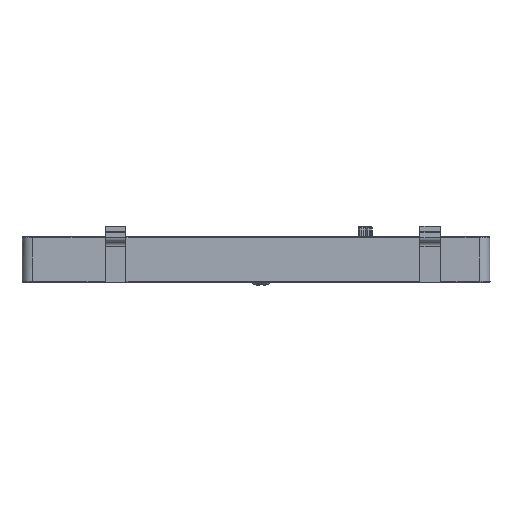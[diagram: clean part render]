
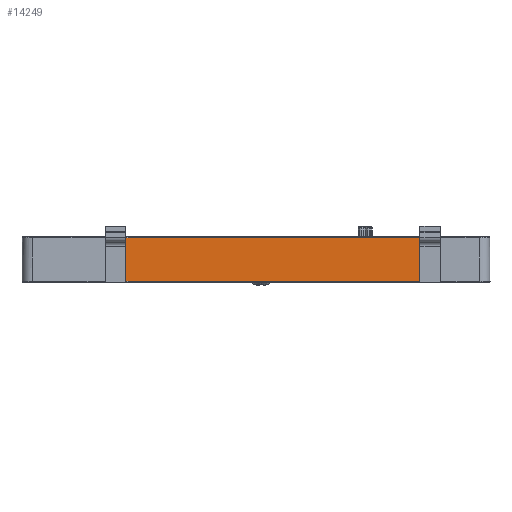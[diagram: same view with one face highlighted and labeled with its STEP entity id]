
A CAD part, front view. The second image highlights one B-rep face of the part: STEP entity #14249.
In plain terms, the highlighted planar face has unit normal (0, -1, 0.009).
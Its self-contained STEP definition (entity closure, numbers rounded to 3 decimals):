
#475 = AXIS2_PLACEMENT_3D ( 'NONE', #22382, #22383, #22384 ) ;
#4091 = EDGE_CURVE ( 'NONE', #6246, #24326, #28814, .T. ) ;
#4092 = EDGE_CURVE ( 'NONE', #6250, #6246, #28805, .T. ) ;
#4093 = EDGE_CURVE ( 'NONE', #24324, #6250, #28792, .T. ) ;
#5379 = CARTESIAN_POINT ( 'NONE',  ( 31.5, 0.075, 8.602 ) ) ;
#5385 = CARTESIAN_POINT ( 'NONE',  ( -25., 0.075, 8.602 ) ) ;
#6246 = VERTEX_POINT ( 'NONE', #5379 ) ;
#6250 = VERTEX_POINT ( 'NONE', #5385 ) ;
#7605 = CARTESIAN_POINT ( 'NONE',  ( -25., 0.002, 0.202 ) ) ;
#7607 = CARTESIAN_POINT ( 'NONE',  ( 31.5, 0.002, 0.202 ) ) ;
#14249 = ADVANCED_FACE ( 'NONE', ( #22371 ), #22372, .T. ) ;
#14580 = EDGE_CURVE ( 'NONE', #24324, #24326, #36730, .T. ) ;
#16517 = VECTOR ( 'NONE', #28817, 1000. ) ;
#16519 = VECTOR ( 'NONE', #28822, 1000. ) ;
#16521 = VECTOR ( 'NONE', #28820, 1000. ) ;
#22371 = FACE_OUTER_BOUND ( 'NONE', #31777, .T. ) ;
#22372 = PLANE ( 'NONE',  #475 ) ;
#22382 = CARTESIAN_POINT ( 'NONE',  ( -25., 0.075, 8.602 ) ) ;
#22383 = DIRECTION ( 'NONE',  ( 0., -1., 0.009 ) ) ;
#22384 = DIRECTION ( 'NONE',  ( 0., -0.009, -1. ) ) ;
#24324 = VERTEX_POINT ( 'NONE', #7605 ) ;
#24326 = VERTEX_POINT ( 'NONE', #7607 ) ;
#26300 = ORIENTED_EDGE ( 'NONE', *, *, #14580, .T. ) ;
#26301 = ORIENTED_EDGE ( 'NONE', *, *, #4091, .F. ) ;
#26302 = ORIENTED_EDGE ( 'NONE', *, *, #4092, .F. ) ;
#26303 = ORIENTED_EDGE ( 'NONE', *, *, #4093, .F. ) ;
#28792 = LINE ( 'NONE', #28821, #16519 ) ;
#28805 = LINE ( 'NONE', #28818, #16521 ) ;
#28814 = LINE ( 'NONE', #28816, #16517 ) ;
#28816 = CARTESIAN_POINT ( 'NONE',  ( 31.5, 0.075, 8.602 ) ) ;
#28817 = DIRECTION ( 'NONE',  ( 0., -0.009, -1. ) ) ;
#28818 = CARTESIAN_POINT ( 'NONE',  ( 31.5, 0.075, 8.602 ) ) ;
#28820 = DIRECTION ( 'NONE',  ( 1., 0., 0. ) ) ;
#28821 = CARTESIAN_POINT ( 'NONE',  ( -25., 0.002, 0.202 ) ) ;
#28822 = DIRECTION ( 'NONE',  ( 0., 0.009, 1. ) ) ;
#31777 = EDGE_LOOP ( 'NONE', ( #26300, #26301, #26302, #26303 ) ) ;
#32799 = VECTOR ( 'NONE', #36736, 1000. ) ;
#36726 = CARTESIAN_POINT ( 'NONE',  ( -25., 0.002, 0.202 ) ) ;
#36730 = LINE ( 'NONE', #36726, #32799 ) ;
#36736 = DIRECTION ( 'NONE',  ( 1., 0., 0. ) ) ;
